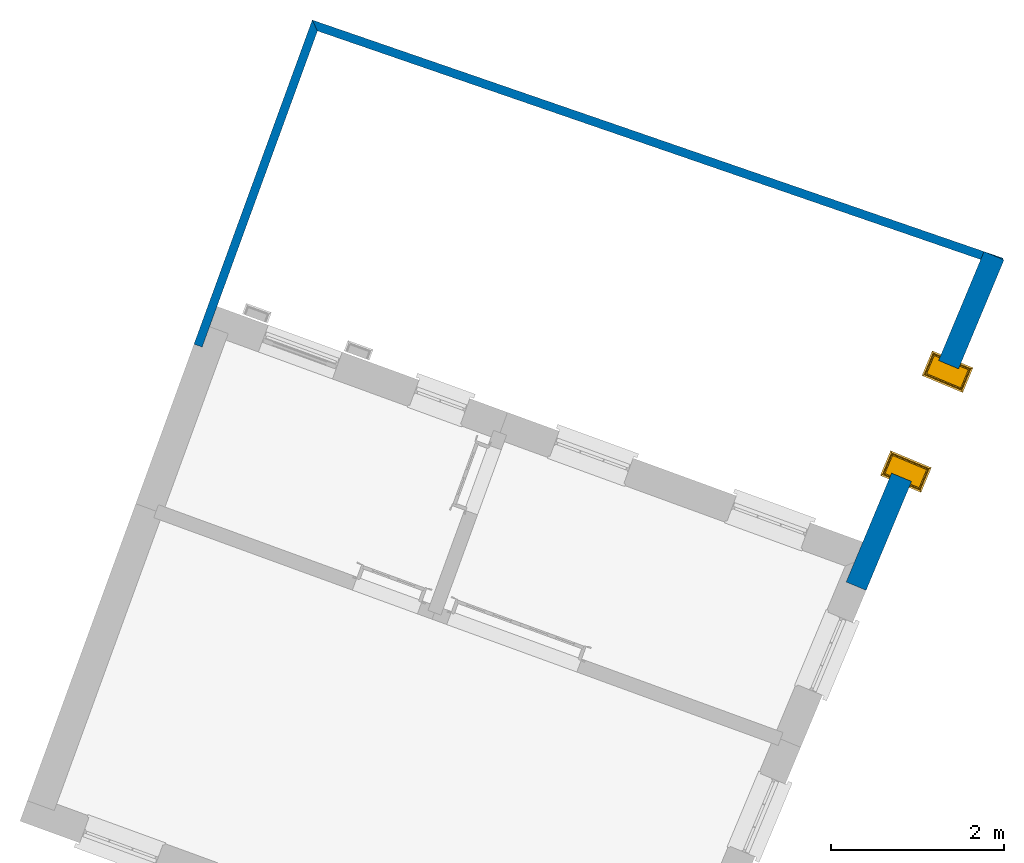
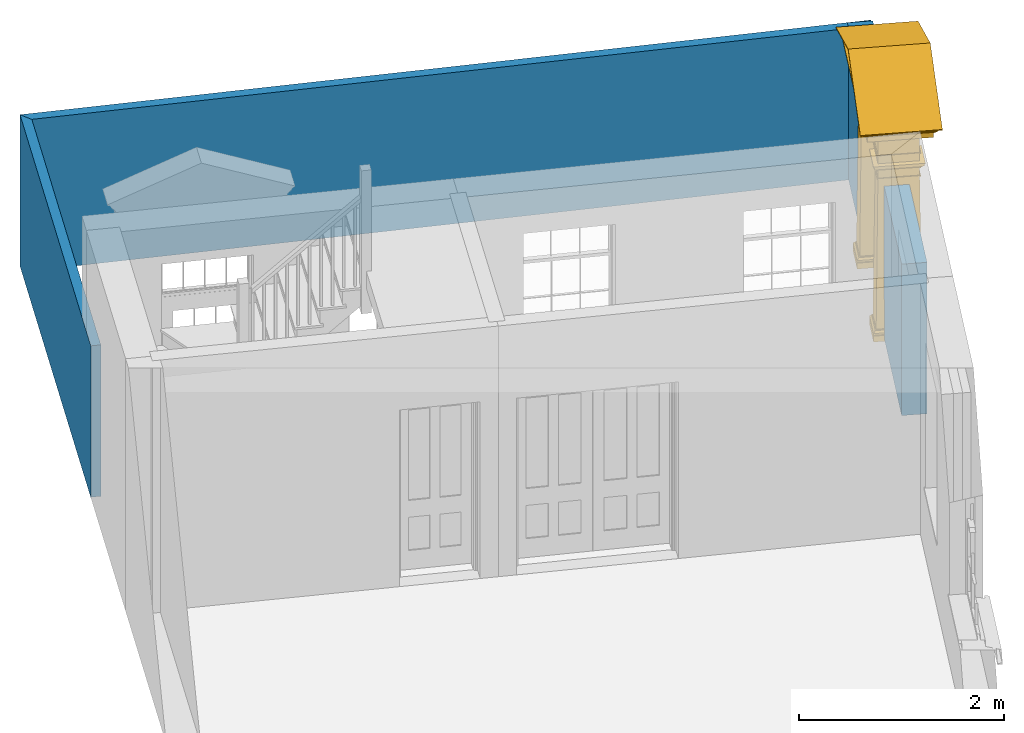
# One storey, part 5 of 6: 3 walls, 1 door, 1 opening.
"""IFC4 building model written with IfcOpenShell, lengths in metres."""

from ifc_helpers import new_model, si_unit, frame, origin, origin_with_axes, place, context, subcontext, project, spatial, polyline, outline, extrude, faceted_brep, source, transform, mapped, material, layer, layer_set, layer_usage, type_object, type_shapes, element, fill, save


model = new_model("IFC4")

# Units and contexts
model_context = context("Model", 3, world=origin_with_axes())
body_context = subcontext(model_context, "Body", "Model", "MODEL_VIEW")
ifc_project = project(units=[si_unit("PLANEANGLEUNIT", "RADIAN"), si_unit("MASSUNIT", "GRAM", prefix="KILO"), si_unit("FORCEUNIT", "NEWTON", prefix="KILO"), si_unit("LENGTHUNIT", "METRE"), si_unit("AREAUNIT", "SQUARE_METRE"), si_unit("VOLUMEUNIT", "CUBIC_METRE")], contexts=[model_context, model_context])

# Sites, building, storey
site_1_placement = place(None, origin_with_axes())
site_1 = spatial("IfcSite", under=ifc_project, at=site_1_placement, Name="Tamar")
site_2_placement = place(site_1_placement, origin_with_axes())
site_2 = spatial("IfcSite", under=site_1, at=site_2_placement, Name="Site plot-13", CompositionType="ELEMENT")
building_placement = place(None, origin_with_axes())
building = spatial("IfcBuilding", under=site_2, at=building_placement, Name="Building plot-13", CompositionType="ELEMENT")
storey_placement = place(None, frame((0.0, 0.0, 26.0), z_axis=(0.0, 0.0, 1.0), x_axis=(1.0, 0.0, 0.0)))
storey = spatial("IfcBuildingStorey", under=building, at=storey_placement, Name="plot-13 0", CompositionType="ELEMENT", Elevation=26.0)

# Walls
ifc_material_1 = material(Name="Masonry")
ifc_layer_1 = layer(ifc_material_1, 0.1, ventilated=False)
ifc_layer_set_1 = layer_set([ifc_layer_1], Name="fence_-0.15_0.25")
ifc_layer_usage_1 = layer_usage(ifc_layer_set_1, "AXIS2", "POSITIVE", -0.25)
wall_type_1 = type_object("IfcWallType", Name="fence_-0.15_0.25", PredefinedType="SOLIDWALL", material=ifc_layer_set_1)
wall_1_placement = place(storey_placement, frame((251.999696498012, 304.861205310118, 0.0), z_axis=(0.0, 0.0, 1.0), x_axis=(-0.945414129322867, 0.325871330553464, 0.0)))
element("IfcWall", 1, at=wall_1_placement, inside=storey, type_object=wall_type_1, material=ifc_layer_usage_1, Name="fence", context=body_context, shape_type="SweptSolid", body=[
    extrude(outline(polyline([(-0.24999999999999, -0.150000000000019), (-0.249999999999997, -0.250000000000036), (8.19073278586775, -0.250000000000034), (8.09250626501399, -0.149999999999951), (-0.24999999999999, -0.150000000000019)])), origin_with_axes(), (0.0, 0.0, 1.0), 1.8),
])
wall_2_placement = place(storey_placement, frame((244.488223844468, 307.450307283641, 0.0), z_axis=(0.0, 0.0, 1.0), x_axis=(-0.342734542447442, -0.939432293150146, 0.0)))
element("IfcWall", 2, at=wall_2_placement, inside=storey, type_object=wall_type_1, material=ifc_layer_usage_1, Name="fence", context=body_context, shape_type="SweptSolid", body=[
    extrude(outline(polyline([(-0.147339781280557, -0.150000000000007), (-0.245566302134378, -0.250000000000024), (3.73927979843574, -0.250000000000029), (3.73927979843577, -0.150000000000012), (-0.147339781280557, -0.150000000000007)])), origin_with_axes(), (0.0, 0.0, 1.0), 1.8),
])

# Wall, opening, door
ifc_material_2 = material(Name="Masonry")
ifc_layer_2 = layer(ifc_material_2, 0.25, ventilated=False)
ifc_layer_set_2 = layer_set([ifc_layer_2], Name="fence_0_0.25")
ifc_layer_usage_2 = layer_usage(ifc_layer_set_2, "AXIS2", "POSITIVE", -0.25)
wall_type_2 = type_object("IfcWallType", Name="fence_0_0.25", PredefinedType="SOLIDWALL", material=ifc_layer_set_2)
wall_3_placement = place(storey_placement, frame((250.599595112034, 301.506443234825, 0.0), z_axis=(0.0, 0.0, 1.0), x_axis=(0.385150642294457, 0.922853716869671, 0.0)))
wall_3 = element("IfcWall", 3, at=wall_3_placement, inside=storey, type_object=wall_type_2, material=ifc_layer_usage_2, Name="fence", context=body_context, shape_type="SweptSolid", body=[
    extrude(outline(polyline([(-0.249999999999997, -4.85436513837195e-15), (-0.250000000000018, -0.250000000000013), (3.88520459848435, -0.250000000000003), (3.88520459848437, 5.17613232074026e-15), (-0.249999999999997, -4.85436513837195e-15)])), origin_with_axes(), (0.0, 0.0, 1.0), 1.8),
])
opening_placement = place(wall_3_placement, frame((1.1126022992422, 0.0, -0.0100000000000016)))
opening = element("IfcOpeningElement", 4, at=opening_placement, cuts=wall_3, Name="My Opening", ObjectType="Opening", context=body_context, shape_type="SweptSolid", body=[
    extrude(outline(polyline([(0.0, -0.269999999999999), (1.40999999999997, -0.269999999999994), (1.40999999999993, 1.01999999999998), (-3.90798504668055e-14, 1.01999999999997), (0.0, -0.269999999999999)])), origin_with_axes(), (0.0, 0.0, 1.0), 1.81),
])
door_type = type_object("IfcDoorType", Name="gate", OperationType="SINGLE_SWING_LEFT", PredefinedType="NOTDEFINED")
shared_shape = source(origin(), body_context, "Body", "Brep", [
    faceted_brep([(1.565, 0.25, 2.5), (1.565, -0.21, 2.5), (1.565, -0.21, 2.49), (1.565, 0.25, 2.49), (1.445, -0.09, 2.01), (1.215, -0.09, 2.01), (1.215, -0.09, 2.0), (1.445, -0.09, 2.0), (-0.035, -0.09, 2.180001), (-0.025, -0.08, 2.180001), (-0.025, 0.25, 2.180001), (-0.035, 0.25, 2.180001), (-0.025, -0.08, 2.170001), (-0.035, -0.09, 2.170001), (-0.035, 0.25, 2.170001), (-0.025, 0.25, 2.170001), (1.445, -0.09, 2.180001), (1.435, -0.08, 2.180001), (-0.025, -0.08, 2.37), (-0.025, 0.25, 2.37), (1.435, -0.08, 2.170001), (1.445, -0.09, 2.170001), (-0.025, -0.08, 2.08), (-0.025, 0.25, 2.08), (1.445, 0.25, 2.180001), (1.435, 0.25, 2.180001), (1.435, -0.08, 2.37), (-0.035, -0.09, 2.37), (-0.035, 0.25, 2.37), (1.435, 0.25, 2.37), (1.445, 0.25, 2.170001), (1.435, 0.25, 2.170001), (0.235, -0.08, 2.08), (0.235, 0.25, 2.08), (1.175, 0.25, 2.08), (1.175, -0.08, 2.08), (-0.075, 0.25, 2.08), (-0.075, -0.13, 2.08), (1.445, -0.09, 2.37), (-0.035, -0.09, 2.380001), (-0.035, 0.25, 2.380001), (1.445, 0.25, 2.37), (1.435, -0.08, 2.08), (1.435, 0.25, 2.08), (0.235, 0.38, 2.07), (0.235, 0.38, 2.08), (0.235, 0.33, 2.08), (0.235, -0.13, 2.08), (-0.075, 0.25, 2.07), (-0.075, -0.13, 2.07), (1.445, -0.09, 2.380001), (-0.045, -0.1, 2.39), (-0.045, 0.25, 2.39), (1.455, 0.25, 2.39), (1.455, -0.1, 2.39), (1.445, 0.25, 2.380001), (1.485, -0.13, 2.08), (1.485, 0.25, 2.08), (0.235, -0.13, 2.07), (1.175, -0.13, 2.08), (-0.065, 0.25, 2.07), (-0.065, -0.12, 2.07), (-0.055, -0.11, 2.39), (-0.055, 0.25, 2.39), (1.465, 0.25, 2.39), (1.465, -0.11, 2.39), (1.485, 0.25, 2.07), (1.485, -0.13, 2.07), (0.225, 0.25, 2.07), (0.235, 0.25, 2.07), (0.225, -0.12, 2.07), (-0.065, 0.25, 2.04), (-0.065, -0.12, 2.04), (1.475, 0.25, 2.07), (1.475, -0.12, 2.07), (1.175, 0.25, 2.07), (1.185, 0.25, 2.07), (1.185, -0.12, 2.07), (1.175, -0.13, 2.07), (1.175, 0.33, 2.08), (1.175, 0.38, 2.07), (-0.055, -0.11, 2.4), (-0.055, 0.25, 2.4), (1.465, 0.25, 2.4), (1.465, -0.11, 2.4), (0.225, 0.25, 2.04), (0.225, -0.12, 2.04), (-0.055, 0.25, 2.04), (-0.055, -0.11, 2.04), (1.475, 0.25, 2.04), (1.475, -0.12, 2.04), (1.185, 0.25, 2.04), (1.195, 0.25, 2.04), (1.195, -0.11, 2.04), (1.185, -0.12, 2.04), (-0.065, -0.12, 2.4), (-0.065, 0.25, 2.4), (-0.085, -0.14, 2.42), (-0.085, 0.25, 2.42), (-0.085, -0.14, 2.43), (-0.085, 0.25, 2.43), (1.495, 0.25, 2.43), (1.495, -0.14, 2.43), (1.495, -0.14, 2.42), (1.495, 0.25, 2.42), (1.475, 0.25, 2.4), (1.475, -0.12, 2.4), (0.215, 0.25, 2.04), (0.215, -0.11, 2.04), (-0.055, 0.25, 2.03), (-0.055, -0.11, 2.03), (0.215, 0.25, 2.03), (0.215, -0.11, 2.03), (1.465, 0.25, 2.04), (1.465, -0.11, 2.04), (1.195, 0.25, 2.03), (1.195, -0.11, 2.03), (1.465, 0.25, 2.03), (1.465, -0.11, 2.03), (-0.145, -0.2, 2.43), (-0.145, 0.25, 2.43), (1.555, 0.25, 2.43), (1.555, -0.2, 2.43), (-0.035, 0.25, 2.01), (-0.035, -0.09, 2.01), (0.195, 0.25, 2.01), (0.195, -0.09, 2.01), (1.215, 0.25, 2.01), (1.445, 0.25, 2.01), (-0.145, -0.2, 2.49), (-0.145, 0.25, 2.49), (1.555, 0.25, 2.49), (1.555, -0.2, 2.49), (-0.035, 0.25, 2.0), (-0.035, -0.09, 2.0), (0.195, 0.25, 2.0), (0.195, -0.09, 2.0), (1.215, 0.25, 2.0), (1.445, 0.25, 2.0), (-0.155, -0.21, 2.49), (-0.155, 0.25, 2.49), (-0.155, -0.21, 2.5), (-0.155, 0.25, 2.5), (-0.165, -0.22, 2.51), (-0.165, 0.25, 2.51), (1.575, 0.25, 2.51), (1.575, -0.22, 2.51), (-0.025, -0.08, 2.0), (-0.025, 0.25, 2.0), (0.185, -0.08, 2.0), (0.185, 0.25, 2.0), (-0.025, 0.25, 1.91), (-0.025, -0.08, 1.91), (0.185, 0.25, 1.91), (0.185, -0.08, 1.91), (1.225, 0.25, 2.0), (1.225, -0.08, 2.0), (1.435, -0.08, 2.0), (1.435, 0.25, 2.0), (1.435, 0.25, 1.91), (1.435, -0.08, 1.91), (1.225, 0.25, 1.91), (1.225, -0.08, 1.91), (-0.175, -0.23, 2.51), (-0.175, 0.25, 2.51), (1.585, 0.25, 2.51), (1.585, -0.23, 2.51), (-0.035, 0.25, 1.91), (-0.035, -0.09, 1.91), (0.195, -0.09, 1.91), (0.195, 0.25, 1.91), (1.445, -0.09, 1.91), (1.445, 0.25, 1.91), (1.215, -0.09, 1.91), (1.215, 0.25, 1.91), (-0.175, -0.23, 2.52), (-0.175, 0.25, 2.52), (1.585, 0.25, 2.52), (1.585, -0.23, 2.52), (-0.035, 0.25, 1.9), (-0.035, -0.09, 1.9), (0.195, 0.25, 1.9), (0.195, -0.09, 1.9), (-0.025, -0.08, 1.9), (-0.025, 0.25, 1.9), (0.185, -0.08, 1.9), (0.185, 0.25, 1.9), (-0.045, 0.25, 0.13), (-0.045, -0.1, 0.13), (0.205, 0.25, 0.13), (0.205, -0.1, 0.13), (1.445, -0.09, 1.9), (1.445, 0.25, 1.9), (1.435, -0.08, 1.9), (1.435, 0.25, 1.9), (1.455, -0.1, 0.13), (1.455, 0.25, 0.13), (1.225, 0.25, 1.9), (1.205, 0.25, 0.13), (1.205, -0.1, 0.13), (1.225, -0.08, 1.9), (1.215, -0.09, 1.9), (1.215, 0.25, 1.9), (-0.185, -0.24, 2.526), (-0.185, 0.25, 2.526), (-0.150858, -0.23, 2.52), (1.560858, -0.23, 2.52), (-0.195, -0.25, 2.551001), (-0.195, 0.25, 2.551001), (-0.223, 0.25, 2.561001), (-0.223, -0.278, 2.561001), (1.633, -0.278, 2.561001), (1.605, -0.25, 2.551001), (1.605, 0.25, 2.551001), (1.633, 0.25, 2.561001), (1.595, 0.25, 2.526), (1.595, -0.24, 2.526), (-0.055, 0.25, 0.13), (-0.055, -0.11, 0.13), (0.215, 0.25, 0.13), (0.215, -0.11, 0.13), (1.465, -0.11, 0.13), (1.465, 0.25, 0.13), (1.195, 0.25, 0.13), (1.195, -0.11, 0.13), (0.705, -0.23, 2.884508), (0.705, -0.24, 2.89465), (0.705, -0.23, 2.874508), (1.486538, -0.21, 2.522499), (-0.076538, -0.21, 2.522499), (0.705, -0.25, 2.923792), (0.705, -0.278, 2.945389), (-0.223, -0.278, 2.571001), (-0.223, 0.25, 2.571001), (1.633, 0.25, 2.571001), (1.633, -0.278, 2.571001), (-0.055, 0.25, 0.12), (-0.055, -0.11, 0.12), (0.215, 0.25, 0.12), (0.215, -0.11, 0.12), (-0.075, 0.25, 0.1), (-0.075, -0.13, 0.1), (0.235, 0.25, 0.1), (0.235, -0.13, 0.1), (1.465, 0.25, 0.12), (1.465, -0.11, 0.12), (1.485, 0.25, 0.1), (1.485, -0.13, 0.1), (1.195, 0.25, 0.12), (1.175, 0.25, 0.1), (1.175, -0.13, 0.1), (1.195, -0.11, 0.12), (-0.13784, -0.22, 2.52125), (0.705, -0.22, 2.870365), (1.51068, -0.21, 2.522499), (1.54784, -0.22, 2.52125), (1.316733, -0.2, 2.523749), (0.093267, -0.2, 2.523749), (-0.10068, -0.21, 2.522499), (0.705, -0.278, 2.955389), (0.705, 0.25, 2.955389), (-0.075, 0.25, 0.08), (-0.075, -0.13, 0.08), (0.235, 0.25, 0.08), (0.235, -0.13, 0.08), (1.485, -0.13, 0.08), (1.485, 0.25, 0.08), (1.175, 0.25, 0.08), (1.175, -0.13, 0.08), (0.705, -0.21, 2.856223), (0.705, -0.21, 2.846222), (1.272495, -0.14, 2.53125), (0.137505, -0.14, 2.53125), (-0.06352, -0.2, 2.523749), (1.47352, -0.2, 2.523749), (-0.065, 0.25, 0.07), (-0.065, -0.12, 0.07), (0.225, 0.25, 0.07), (0.225, -0.12, 0.07), (1.475, 0.25, 0.07), (1.475, -0.12, 0.07), (1.185, 0.25, 0.07), (1.185, -0.12, 0.07), (0.705, -0.2, 2.842082), (1.298626, -0.14, 2.53125), (1.214197, -0.12, 2.533749), (0.195803, -0.12, 2.533749), (0.111374, -0.14, 2.53125), (0.705, -0.2, 2.777137), (-0.075, 0.25, 0.07), (-0.075, -0.13, 0.07), (0.235, -0.13, 0.07), (0.235, 0.25, 0.07), (0.235, -0.13, 0.0), (-0.075, -0.13, 0.0), (-0.075, 0.25, 0.0), (0.235, 0.25, 0.0), (1.485, -0.13, 0.07), (1.485, 0.25, 0.07), (1.485, -0.13, 0.0), (1.175, -0.13, 0.0), (1.175, 0.25, 0.0), (1.485, 0.25, 0.0), (1.175, -0.13, 0.07), (1.175, 0.25, 0.07), (0.705, -0.14, 2.766314), (0.705, -0.14, 2.777137), (0.705, -0.12, 2.744666), (1.185048, -0.11, 2.535), (0.224952, -0.11, 2.535), (0.705, -0.11, 2.744666), (1.211179, -0.11, 2.535), (1.12675, -0.09, 2.537501), (0.28325, -0.09, 2.537501), (0.198821, -0.11, 2.535), (0.705, -0.11, 2.733843), (1.152881, -0.09, 2.537501), (1.18203, -0.1, 2.536251), (0.286268, -0.08, 2.538751), (1.123732, -0.08, 2.538751), (0.22797, -0.1, 2.536251), (0.257119, -0.09, 2.537501), (0.705, -0.1, 2.733843), (0.705, -0.09, 2.712194), (0.705, -0.09, 2.723017), (0.705, -0.08, 2.712194), (-0.155, 0.46, 2.5), (-0.155, 0.46, 2.49), (-0.035, 0.34, 2.01), (0.195, 0.34, 2.01), (0.195, 0.34, 2.0), (-0.035, 0.34, 2.0), (1.445, 0.34, 2.180001), (1.435, 0.33, 2.180001), (1.435, 0.33, 2.170001), (1.445, 0.34, 2.170001), (-0.035, 0.34, 2.180001), (-0.025, 0.33, 2.180001), (1.435, 0.33, 2.37), (-0.025, 0.33, 2.170001), (-0.035, 0.34, 2.170001), (1.435, 0.33, 2.08), (-0.025, 0.33, 2.37), (1.445, 0.34, 2.37), (1.485, 0.38, 2.08), (-0.035, 0.34, 2.37), (1.445, 0.34, 2.380001), (-0.025, 0.33, 2.08), (1.175, 0.38, 2.08), (1.485, 0.38, 2.07), (-0.035, 0.34, 2.380001), (1.455, 0.35, 2.39), (-0.045, 0.35, 2.39), (-0.075, 0.38, 2.08), (1.475, 0.37, 2.07), (1.465, 0.36, 2.39), (-0.055, 0.36, 2.39), (-0.075, 0.38, 2.07), (1.185, 0.37, 2.07), (1.475, 0.37, 2.04), (-0.065, 0.37, 2.07), (0.225, 0.37, 2.07), (1.465, 0.36, 2.4), (-0.055, 0.36, 2.4), (1.185, 0.37, 2.04), (1.465, 0.36, 2.04), (-0.065, 0.37, 2.04), (0.215, 0.36, 2.04), (0.225, 0.37, 2.04), (1.475, 0.37, 2.4), (1.495, 0.39, 2.42), (1.495, 0.39, 2.43), (-0.085, 0.39, 2.43), (-0.085, 0.39, 2.42), (-0.065, 0.37, 2.4), (1.195, 0.36, 2.04), (1.465, 0.36, 2.03), (1.195, 0.36, 2.03), (-0.055, 0.36, 2.04), (0.215, 0.36, 2.03), (-0.055, 0.36, 2.03), (1.555, 0.45, 2.43), (-0.145, 0.45, 2.43), (1.445, 0.34, 2.01), (1.215, 0.34, 2.01), (1.555, 0.45, 2.49), (-0.145, 0.45, 2.49), (1.445, 0.34, 2.0), (1.215, 0.34, 2.0), (1.565, 0.46, 2.49), (1.565, 0.46, 2.5), (1.575, 0.47, 2.51), (-0.165, 0.47, 2.51), (1.435, 0.33, 2.0), (1.225, 0.33, 2.0), (1.435, 0.33, 1.91), (1.225, 0.33, 1.91), (0.185, 0.33, 2.0), (-0.025, 0.33, 2.0), (-0.025, 0.33, 1.91), (0.185, 0.33, 1.91), (1.585, 0.48, 2.51), (-0.175, 0.48, 2.51), (1.445, 0.34, 1.91), (1.215, 0.34, 1.91), (-0.035, 0.34, 1.91), (0.195, 0.34, 1.91), (1.585, 0.48, 2.52), (-0.175, 0.48, 2.52), (1.445, 0.34, 1.9), (1.215, 0.34, 1.9), (1.435, 0.33, 1.9), (1.225, 0.33, 1.9), (1.455, 0.35, 0.13), (1.205, 0.35, 0.13), (-0.035, 0.34, 1.9), (-0.025, 0.33, 1.9), (-0.045, 0.35, 0.13), (0.205, 0.35, 0.13), (0.185, 0.33, 1.9), (0.195, 0.34, 1.9), (1.595, 0.49, 2.526), (1.560858, 0.48, 2.52), (-0.150858, 0.48, 2.52), (1.605, 0.5, 2.551001), (1.633, 0.528, 2.561001), (-0.223, 0.528, 2.561001), (-0.195, 0.5, 2.551001), (-0.185, 0.49, 2.526), (1.465, 0.36, 0.13), (1.195, 0.36, 0.13), (-0.055, 0.36, 0.13), (0.215, 0.36, 0.13), (0.705, 0.48, 2.884508), (0.705, 0.49, 2.89465), (0.705, 0.48, 2.874508), (-0.076538, 0.46, 2.522499), (1.486538, 0.46, 2.522499), (0.705, 0.5, 2.923792), (0.705, 0.528, 2.945389), (1.633, 0.528, 2.571001), (-0.223, 0.528, 2.571001), (1.465, 0.36, 0.12), (1.195, 0.36, 0.12), (1.485, 0.38, 0.1), (1.175, 0.38, 0.1), (-0.055, 0.36, 0.12), (-0.075, 0.38, 0.1), (0.235, 0.38, 0.1), (0.215, 0.36, 0.12), (1.54784, 0.47, 2.52125), (0.705, 0.47, 2.870365), (-0.10068, 0.46, 2.522499), (-0.13784, 0.47, 2.52125), (0.093267, 0.45, 2.523749), (1.316733, 0.45, 2.523749), (1.51068, 0.46, 2.522499), (0.705, 0.528, 2.955389), (1.485, 0.38, 0.08), (1.175, 0.38, 0.08), (-0.075, 0.38, 0.08), (0.235, 0.38, 0.08), (0.705, 0.46, 2.856223), (0.705, 0.46, 2.846222), (0.137505, 0.39, 2.53125), (1.272495, 0.39, 2.53125), (1.47352, 0.45, 2.523749), (-0.06352, 0.45, 2.523749), (1.475, 0.37, 0.07), (1.185, 0.37, 0.07), (-0.065, 0.37, 0.07), (0.225, 0.37, 0.07), (0.705, 0.45, 2.842082), (0.111374, 0.39, 2.53125), (0.195803, 0.37, 2.533749), (1.214197, 0.37, 2.533749), (1.298626, 0.39, 2.53125), (0.705, 0.45, 2.777137), (1.485, 0.38, 0.07), (1.175, 0.38, 0.07), (1.175, 0.38, 0.0), (1.485, 0.38, 0.0), (-0.075, 0.38, 0.07), (-0.075, 0.38, 0.0), (0.235, 0.38, 0.0), (0.235, 0.38, 0.07), (0.705, 0.39, 2.766314), (0.705, 0.39, 2.777137), (0.705, 0.37, 2.744666), (0.224952, 0.36, 2.535), (1.185048, 0.36, 2.535), (0.705, 0.36, 2.744666), (0.198821, 0.36, 2.535), (0.28325, 0.34, 2.537501), (1.12675, 0.34, 2.537501), (1.211179, 0.36, 2.535), (0.705, 0.36, 2.733843), (0.257119, 0.34, 2.537501), (0.22797, 0.35, 2.536251), (1.123732, 0.33, 2.538751), (0.286268, 0.33, 2.538751), (1.18203, 0.35, 2.536251), (1.152881, 0.34, 2.537501), (0.705, 0.35, 2.733843), (0.705, 0.34, 2.723017), (0.705, 0.34, 2.712194), (0.705, 0.33, 2.712194)], [[[0, 1, 2, 3]], [[4, 5, 6, 7]], [[8, 9, 10, 11]], [[12, 13, 14, 15]], [[13, 8, 11, 14]], [[9, 8, 16, 17]], [[9, 18, 19, 10]], [[13, 12, 20, 21]], [[22, 12, 15, 23]], [[8, 13, 21, 16]], [[17, 16, 24, 25]], [[18, 9, 17, 26]], [[27, 28, 19, 18]], [[26, 17, 25, 29]], [[16, 21, 30, 24]], [[21, 20, 31, 30]], [[32, 33, 34, 35]], [[12, 32, 35, 20]], [[12, 22, 32]], [[22, 23, 36, 37]], [[27, 18, 26, 38]], [[39, 40, 28, 27]], [[41, 38, 26, 29]], [[20, 42, 43, 31]], [[44, 45, 46]], [[42, 20, 35]], [[37, 47, 32, 22]], [[36, 48, 49, 37]], [[39, 27, 38, 50]], [[51, 52, 40, 39]], [[53, 54, 50, 55]], [[55, 50, 38, 41]], [[43, 42, 56, 57]], [[32, 47, 58]], [[59, 56, 42, 35]], [[58, 47, 37, 49]], [[48, 60, 61, 49]], [[51, 39, 50, 54]], [[62, 63, 52, 51]], [[64, 65, 54, 53]], [[66, 57, 56, 67]], [[68, 69, 58, 70]], [[60, 71, 72, 61]], [[73, 66, 67, 74]], [[75, 76, 77, 78]], [[34, 79, 80, 75]], [[59, 78, 67, 56]], [[61, 70, 58, 49]], [[62, 51, 54, 65]], [[81, 82, 63, 62]], [[83, 84, 65, 64]], [[85, 68, 70, 86]], [[71, 87, 88, 72]], [[86, 70, 61, 72]], [[77, 74, 67, 78]], [[89, 73, 74, 90]], [[91, 92, 93, 94]], [[76, 91, 94, 77]], [[81, 62, 65, 84]], [[95, 96, 82, 81]], [[97, 98, 96, 95]], [[99, 100, 98, 97]], [[101, 102, 103, 104]], [[105, 106, 84, 83]], [[104, 103, 106, 105]], [[107, 85, 86, 108]], [[87, 109, 110, 88]], [[88, 108, 86, 72]], [[111, 107, 108, 112]], [[77, 94, 90, 74]], [[113, 89, 90, 114]], [[92, 115, 116, 93]], [[93, 114, 90, 94]], [[117, 113, 114, 118]], [[95, 81, 84, 106]], [[97, 95, 106, 103]], [[119, 120, 100, 99]], [[99, 97, 103, 102]], [[121, 122, 102, 101]], [[109, 123, 124, 110]], [[112, 108, 88, 110]], [[125, 111, 112, 126]], [[115, 127, 5, 116]], [[93, 116, 118, 114]], [[128, 117, 118, 4]], [[129, 130, 120, 119]], [[119, 99, 102, 122]], [[131, 132, 122, 121]], [[123, 133, 134, 124]], [[110, 124, 126, 112]], [[135, 125, 126, 136]], [[127, 137, 6, 5]], [[4, 118, 116, 5]], [[138, 128, 4, 7]], [[139, 140, 130, 129]], [[129, 119, 122, 132]], [[141, 142, 140, 139]], [[143, 144, 142, 141]], [[145, 146, 1, 0]], [[3, 2, 132, 131]], [[147, 134, 133, 148]], [[126, 124, 134, 136]], [[135, 136, 149, 150]], [[148, 151, 152, 147]], [[153, 150, 149, 154]], [[6, 137, 155, 156]], [[7, 157, 158, 138]], [[159, 158, 157, 160]], [[155, 161, 162, 156]], [[139, 129, 132, 2]], [[141, 139, 2, 1]], [[163, 164, 144, 143]], [[143, 141, 1, 146]], [[165, 166, 146, 145]], [[147, 149, 136, 134]], [[167, 168, 152, 151]], [[147, 152, 154, 149]], [[154, 169, 170, 153]], [[156, 157, 7, 6]], [[160, 157, 156, 162]], [[171, 172, 159, 160]], [[173, 162, 161, 174]], [[175, 176, 164, 163]], [[163, 143, 146, 166]], [[177, 178, 166, 165]], [[179, 180, 168, 167]], [[154, 152, 168, 169]], [[181, 170, 169, 182]], [[183, 180, 179, 184]], [[181, 182, 185, 186]], [[184, 187, 188, 183]], [[189, 186, 185, 190]], [[160, 162, 173, 171]], [[191, 192, 172, 171]], [[191, 193, 194, 192]], [[193, 195, 196, 194]], [[197, 198, 199, 200]], [[201, 202, 197, 200]], [[174, 202, 201, 173]], [[203, 204, 176, 175]], [[175, 163, 205]], [[163, 166, 206, 205]], [[207, 208, 204, 203]], [[209, 208, 207, 210]], [[211, 212, 213, 214]], [[215, 216, 178, 177]], [[213, 212, 216, 215]], [[178, 206, 166]], [[180, 182, 169, 168]], [[183, 185, 182, 180]], [[187, 217, 218, 188]], [[183, 188, 190, 185]], [[219, 189, 190, 220]], [[201, 191, 171, 173]], [[200, 193, 191, 201]], [[195, 193, 200, 199]], [[195, 221, 222, 196]], [[198, 223, 224, 199]], [[175, 225, 226, 203]], [[225, 175, 205, 227]], [[205, 206, 228, 229]], [[203, 226, 230, 207]], [[207, 230, 231, 210]], [[232, 233, 209, 210]], [[234, 235, 211, 214]], [[231, 230, 212, 211]], [[216, 226, 225, 178]], [[212, 230, 226, 216]], [[227, 206, 178, 225]], [[217, 236, 237, 218]], [[220, 190, 188, 218]], [[238, 219, 220, 239]], [[236, 240, 241, 237]], [[242, 238, 239, 243]], [[221, 195, 199, 224]], [[244, 222, 221, 245]], [[246, 244, 245, 247]], [[248, 249, 250, 251]], [[223, 248, 251, 224]], [[227, 205, 252, 253]], [[254, 228, 206, 255]], [[256, 257, 229, 228]], [[252, 205, 229, 258]], [[231, 259, 232, 210]], [[260, 233, 232, 259]], [[234, 260, 259, 235]], [[259, 231, 211, 235]], [[253, 255, 206, 227]], [[239, 220, 218, 237]], [[261, 262, 241, 240]], [[243, 239, 237, 241]], [[263, 242, 243, 264]], [[224, 251, 245, 221]], [[251, 250, 247, 245]], [[265, 266, 246, 247]], [[249, 267, 268, 250]], [[253, 252, 258, 269]], [[270, 228, 254, 269]], [[269, 254, 255, 253]], [[256, 271, 272, 257]], [[273, 229, 257]], [[274, 256, 228]], [[269, 258, 229, 270]], [[261, 275, 276, 262]], [[264, 243, 241, 262]], [[277, 263, 264, 278]], [[250, 268, 265, 247]], [[279, 266, 265, 280]], [[267, 281, 282, 268]], [[283, 274, 228, 270]], [[284, 271, 256]], [[271, 285, 286, 272]], [[287, 257, 272]], [[270, 229, 273, 283]], [[283, 273, 257, 288]], [[288, 256, 274, 283]], [[289, 290, 276, 275]], [[262, 276, 278, 264]], [[278, 291, 292, 277]], [[293, 294, 295, 296]], [[280, 265, 268, 282]], [[297, 298, 279, 280]], [[299, 300, 301, 302]], [[303, 282, 281, 304]], [[305, 271, 284, 306]], [[306, 284, 256, 288]], [[307, 285, 271, 305]], [[285, 308, 309, 286]], [[305, 272, 286, 307]], [[288, 257, 287, 306]], [[306, 287, 272, 305]], [[289, 295, 294, 290]], [[278, 276, 290, 291]], [[296, 292, 291, 293]], [[290, 294, 293, 291]], [[280, 282, 303, 297]], [[302, 298, 297, 299]], [[299, 297, 303, 300]], [[304, 301, 300, 303]], [[310, 311, 285, 307]], [[311, 308, 285]], [[308, 312, 313, 309]], [[314, 286, 309]], [[307, 286, 314, 310]], [[315, 308, 311, 310]], [[316, 312, 308, 317]], [[318, 313, 312, 319]], [[320, 309, 313, 321]], [[310, 314, 309, 315]], [[322, 317, 308, 315]], [[323, 312, 316, 324]], [[324, 316, 317, 322]], [[323, 313, 318, 325]], [[325, 319, 312, 323]], [[325, 318, 319]], [[315, 309, 320, 322]], [[324, 321, 313, 323]], [[322, 320, 321, 324]], [[142, 326, 327, 140]], [[328, 329, 330, 331]], [[332, 333, 25, 24]], [[334, 335, 30, 31]], [[335, 332, 24, 30]], [[333, 332, 336, 337]], [[333, 338, 29, 25]], [[335, 334, 339, 340]], [[341, 334, 31, 43]], [[332, 335, 340, 336]], [[337, 336, 11, 10]], [[338, 333, 337, 342]], [[343, 41, 29, 338]], [[342, 337, 10, 19]], [[336, 340, 14, 11]], [[340, 339, 15, 14]], [[79, 34, 33, 46]], [[334, 79, 46, 339]], [[334, 341, 79]], [[341, 43, 57, 344]], [[343, 338, 342, 345]], [[346, 55, 41, 343]], [[28, 345, 342, 19]], [[339, 347, 23, 15]], [[35, 34, 75, 78]], [[33, 32, 58, 69]], [[347, 339, 46]], [[344, 348, 79, 341]], [[57, 66, 349, 344]], [[346, 343, 345, 350]], [[351, 53, 55, 346]], [[52, 352, 350, 40]], [[40, 350, 345, 28]], [[23, 347, 353, 36]], [[79, 348, 80]], [[45, 353, 347, 46]], [[80, 348, 344, 349]], [[66, 73, 354, 349]], [[351, 346, 350, 352]], [[355, 64, 53, 351]], [[63, 356, 352, 52]], [[48, 36, 353, 357]], [[76, 75, 80, 358]], [[73, 89, 359, 354]], [[60, 48, 357, 360]], [[69, 68, 361, 44]], [[46, 33, 69, 44]], [[45, 44, 357, 353]], [[354, 358, 80, 349]], [[355, 351, 352, 356]], [[362, 83, 64, 355]], [[82, 363, 356, 63]], [[91, 76, 358, 364]], [[89, 113, 365, 359]], [[364, 358, 354, 359]], [[361, 360, 357, 44]], [[71, 60, 360, 366]], [[85, 107, 367, 368]], [[68, 85, 368, 361]], [[362, 355, 356, 363]], [[369, 105, 83, 362]], [[370, 104, 105, 369]], [[371, 101, 104, 370]], [[100, 372, 373, 98]], [[96, 374, 363, 82]], [[98, 373, 374, 96]], [[92, 91, 364, 375]], [[113, 117, 376, 365]], [[365, 375, 364, 359]], [[115, 92, 375, 377]], [[361, 368, 366, 360]], [[87, 71, 366, 378]], [[107, 111, 379, 367]], [[367, 378, 366, 368]], [[109, 87, 378, 380]], [[369, 362, 363, 374]], [[370, 369, 374, 373]], [[381, 121, 101, 371]], [[371, 370, 373, 372]], [[120, 382, 372, 100]], [[117, 128, 383, 376]], [[377, 375, 365, 376]], [[127, 115, 377, 384]], [[111, 125, 329, 379]], [[367, 379, 380, 378]], [[123, 109, 380, 328]], [[385, 131, 121, 381]], [[381, 371, 372, 382]], [[130, 386, 382, 120]], [[128, 138, 387, 383]], [[376, 383, 384, 377]], [[137, 127, 384, 388]], [[125, 135, 330, 329]], [[328, 380, 379, 329]], [[133, 123, 328, 331]], [[389, 3, 131, 385]], [[385, 381, 382, 386]], [[390, 0, 3, 389]], [[391, 145, 0, 390]], [[144, 392, 326, 142]], [[140, 327, 386, 130]], [[393, 387, 138, 158]], [[384, 383, 387, 388]], [[137, 388, 394, 155]], [[158, 159, 395, 393]], [[161, 155, 394, 396]], [[330, 135, 150, 397]], [[331, 398, 148, 133]], [[151, 148, 398, 399]], [[150, 153, 400, 397]], [[389, 385, 386, 327]], [[390, 389, 327, 326]], [[401, 165, 145, 391]], [[391, 390, 326, 392]], [[164, 402, 392, 144]], [[393, 394, 388, 387]], [[172, 403, 395, 159]], [[393, 395, 396, 394]], [[396, 404, 174, 161]], [[397, 398, 331, 330]], [[399, 398, 397, 400]], [[405, 167, 151, 399]], [[406, 400, 153, 170]], [[407, 177, 165, 401]], [[401, 391, 392, 402]], [[176, 408, 402, 164]], [[192, 409, 403, 172]], [[396, 395, 403, 404]], [[202, 174, 404, 410]], [[411, 409, 192, 194]], [[202, 410, 412, 197]], [[194, 196, 413, 411]], [[198, 197, 412, 414]], [[399, 400, 406, 405]], [[415, 179, 167, 405]], [[415, 416, 184, 179]], [[416, 417, 187, 184]], [[186, 189, 418, 419]], [[420, 181, 186, 419]], [[170, 181, 420, 406]], [[421, 215, 177, 407]], [[407, 401, 422]], [[401, 402, 423, 422]], [[424, 213, 215, 421]], [[214, 213, 424, 425]], [[426, 427, 208, 209]], [[204, 428, 408, 176]], [[208, 427, 428, 204]], [[408, 423, 402]], [[409, 410, 404, 403]], [[411, 412, 410, 409]], [[196, 222, 429, 413]], [[411, 413, 414, 412]], [[223, 198, 414, 430]], [[420, 415, 405, 406]], [[419, 416, 415, 420]], [[417, 416, 419, 418]], [[417, 431, 217, 187]], [[189, 219, 432, 418]], [[407, 433, 434, 421]], [[433, 407, 422, 435]], [[422, 423, 436, 437]], [[421, 434, 438, 424]], [[424, 438, 439, 425]], [[440, 234, 214, 425]], [[233, 441, 426, 209]], [[439, 438, 427, 426]], [[428, 434, 433, 408]], [[427, 438, 434, 428]], [[435, 423, 408, 433]], [[222, 244, 442, 429]], [[430, 414, 413, 429]], [[248, 223, 430, 443]], [[244, 246, 444, 442]], [[249, 248, 443, 445]], [[431, 417, 418, 432]], [[236, 217, 431, 446]], [[240, 236, 446, 447]], [[238, 242, 448, 449]], [[219, 238, 449, 432]], [[435, 422, 450, 451]], [[452, 436, 423, 453]], [[454, 455, 437, 436]], [[450, 422, 437, 456]], [[439, 457, 440, 425]], [[260, 234, 440, 457]], [[233, 260, 457, 441]], [[457, 439, 426, 441]], [[451, 453, 423, 435]], [[443, 430, 429, 442]], [[266, 458, 444, 246]], [[445, 443, 442, 444]], [[267, 249, 445, 459]], [[432, 449, 446, 431]], [[449, 448, 447, 446]], [[460, 261, 240, 447]], [[242, 263, 461, 448]], [[451, 450, 456, 462]], [[463, 436, 452, 462]], [[462, 452, 453, 451]], [[454, 464, 465, 455]], [[466, 437, 455]], [[467, 454, 436]], [[462, 456, 437, 463]], [[266, 279, 468, 458]], [[459, 445, 444, 458]], [[281, 267, 459, 469]], [[448, 461, 460, 447]], [[275, 261, 460, 470]], [[263, 277, 471, 461]], [[472, 467, 436, 463]], [[473, 464, 454]], [[464, 474, 475, 465]], [[476, 455, 465]], [[463, 437, 466, 472]], [[472, 466, 455, 477]], [[477, 454, 467, 472]], [[298, 478, 468, 279]], [[458, 468, 469, 459]], [[469, 479, 304, 281]], [[480, 481, 302, 301]], [[470, 460, 461, 471]], [[482, 289, 275, 470]], [[483, 484, 296, 295]], [[485, 471, 277, 292]], [[486, 464, 473, 487]], [[487, 473, 454, 477]], [[488, 474, 464, 486]], [[474, 489, 490, 475]], [[486, 465, 475, 488]], [[477, 455, 476, 487]], [[487, 476, 465, 486]], [[298, 302, 481, 478]], [[469, 468, 478, 479]], [[301, 304, 479, 480]], [[478, 481, 480, 479]], [[470, 471, 485, 482]], [[295, 289, 482, 483]], [[483, 482, 485, 484]], [[292, 296, 484, 485]], [[491, 492, 474, 488]], [[492, 489, 474]], [[489, 493, 494, 490]], [[495, 475, 490]], [[488, 475, 495, 491]], [[496, 489, 492, 491]], [[497, 493, 489, 498]], [[499, 494, 493, 500]], [[501, 490, 494, 502]], [[491, 495, 490, 496]], [[503, 498, 489, 496]], [[497, 504, 505, 493]], [[504, 497, 498, 503]], [[505, 494, 499, 506]], [[506, 500, 493, 505]], [[506, 499, 500]], [[496, 490, 501, 503]], [[504, 502, 494, 505]], [[503, 501, 502, 504]], [[78, 59, 35]]]),
])
type_shapes(door_type, [shared_shape])
door_placement = place(storey_placement, frame((251.27728510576, 302.429221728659, -0.0100000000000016), z_axis=(0.0, 0.0, 1.0), x_axis=(0.543062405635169, 1.30122374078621, 0.0)))
door = element("IfcDoor", 5, at=door_placement, inside=storey, type_object=door_type, Name="house entrance gate", OverallHeight=1.81, OverallWidth=1.41, context=body_context, shape_type="MappedRepresentation", body=[
    mapped(shared_shape, transform((0.0, 0.0, 0.0), scale=1.0)),
])
fill(opening, door)

save(model, "model.ifc")
